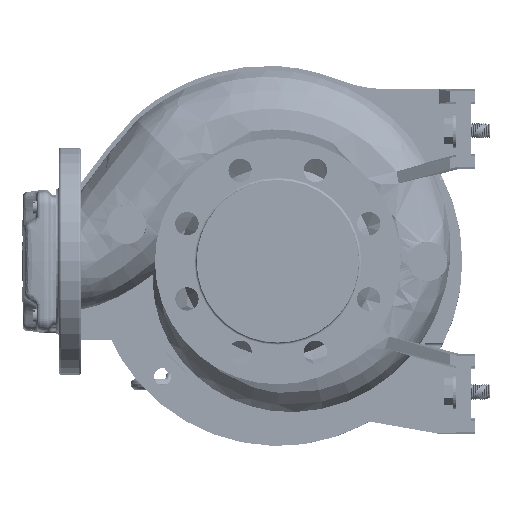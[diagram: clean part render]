
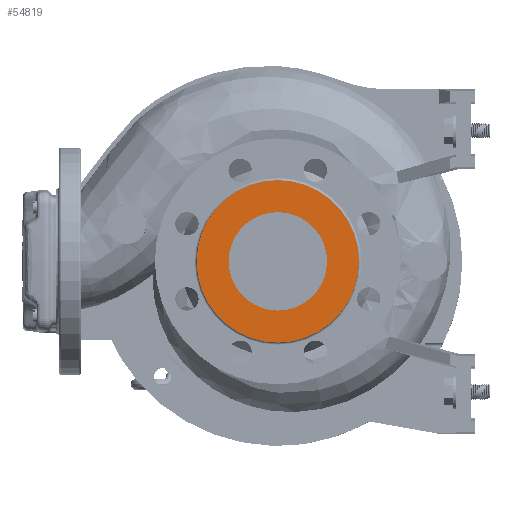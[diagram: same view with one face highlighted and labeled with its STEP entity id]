
A CAD part, left-side view. The second image highlights one B-rep face of the part: STEP entity #54819.
In plain terms, the highlighted planar face has unit normal (-1, 0, 0).
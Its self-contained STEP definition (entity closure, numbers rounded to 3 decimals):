
#1176 = DIRECTION ( 'NONE',  ( 0., -1., 0. ) ) ;
#7794 = ORIENTED_EDGE ( 'NONE', *, *, #119015, .F. ) ;
#8906 = DIRECTION ( 'NONE',  ( 0., 1., 0. ) ) ;
#9297 = CARTESIAN_POINT ( 'NONE',  ( -100., 40., 0. ) ) ;
#9830 = FACE_OUTER_BOUND ( 'NONE', #42986, .T. ) ;
#10486 = AXIS2_PLACEMENT_3D ( 'NONE', #107887, #149016, #8906 ) ;
#16973 = CIRCLE ( 'NONE', #19924, 40. ) ;
#17091 = DIRECTION ( 'NONE',  ( -1., 0., 0. ) ) ;
#19855 = DIRECTION ( 'NONE',  ( 0., -1., 0. ) ) ;
#19924 = AXIS2_PLACEMENT_3D ( 'NONE', #177666, #148742, #151499 ) ;
#20383 = ORIENTED_EDGE ( 'NONE', *, *, #45678, .T. ) ;
#31435 = ORIENTED_EDGE ( 'NONE', *, *, #176858, .F. ) ;
#32381 = EDGE_LOOP ( 'NONE', ( #31435, #7794 ) ) ;
#33870 = CARTESIAN_POINT ( 'NONE',  ( -100., 0., 0. ) ) ;
#40158 = VERTEX_POINT ( 'NONE', #9297 ) ;
#40990 = CARTESIAN_POINT ( 'NONE',  ( -100., 0., 0. ) ) ;
#42986 = EDGE_LOOP ( 'NONE', ( #20383, #91842 ) ) ;
#45678 = EDGE_CURVE ( 'NONE', #77922, #125892, #47424, .T. ) ;
#47424 = CIRCLE ( 'NONE', #151805, 66. ) ;
#49613 = CARTESIAN_POINT ( 'NONE',  ( -100., -40., 0. ) ) ;
#54819 = ADVANCED_FACE ( 'NONE', ( #135901, #9830 ), #134081, .F. ) ;
#63073 = AXIS2_PLACEMENT_3D ( 'NONE', #129105, #101973, #1176 ) ;
#69367 = CARTESIAN_POINT ( 'NONE',  ( -100., 66., 0. ) ) ;
#75692 = AXIS2_PLACEMENT_3D ( 'NONE', #40990, #139984, #110144 ) ;
#77922 = VERTEX_POINT ( 'NONE', #89398 ) ;
#89398 = CARTESIAN_POINT ( 'NONE',  ( -100., -66., 0. ) ) ;
#91271 = VERTEX_POINT ( 'NONE', #49613 ) ;
#91842 = ORIENTED_EDGE ( 'NONE', *, *, #163409, .T. ) ;
#101973 = DIRECTION ( 'NONE',  ( -1., 0., 0. ) ) ;
#104783 = CIRCLE ( 'NONE', #63073, 66. ) ;
#107887 = CARTESIAN_POINT ( 'NONE',  ( -100., 0., 0. ) ) ;
#110144 = DIRECTION ( 'NONE',  ( 0., -1., 0. ) ) ;
#119015 = EDGE_CURVE ( 'NONE', #40158, #91271, #16973, .T. ) ;
#125892 = VERTEX_POINT ( 'NONE', #69367 ) ;
#129105 = CARTESIAN_POINT ( 'NONE',  ( -100., 0., 0. ) ) ;
#134081 = PLANE ( 'NONE',  #10486 ) ;
#135901 = FACE_BOUND ( 'NONE', #32381, .T. ) ;
#139984 = DIRECTION ( 'NONE',  ( -1., 0., 0. ) ) ;
#148742 = DIRECTION ( 'NONE',  ( -1., 0., 0. ) ) ;
#149016 = DIRECTION ( 'NONE',  ( 1., 0., 0. ) ) ;
#151499 = DIRECTION ( 'NONE',  ( 0., -1., 0. ) ) ;
#151805 = AXIS2_PLACEMENT_3D ( 'NONE', #33870, #17091, #19855 ) ;
#163409 = EDGE_CURVE ( 'NONE', #125892, #77922, #104783, .T. ) ;
#176858 = EDGE_CURVE ( 'NONE', #91271, #40158, #180093, .T. ) ;
#177666 = CARTESIAN_POINT ( 'NONE',  ( -100., 0., 0. ) ) ;
#180093 = CIRCLE ( 'NONE', #75692, 40. ) ;
